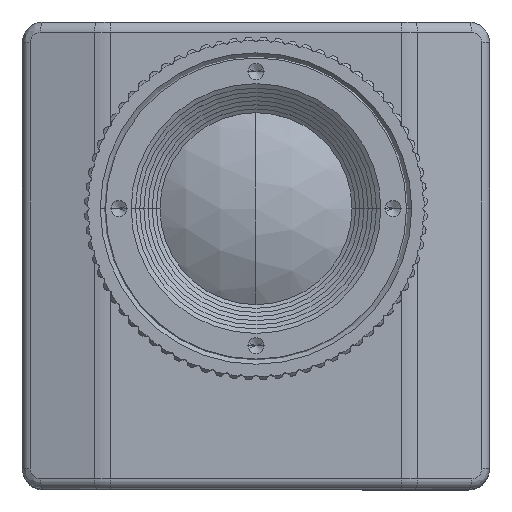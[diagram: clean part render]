
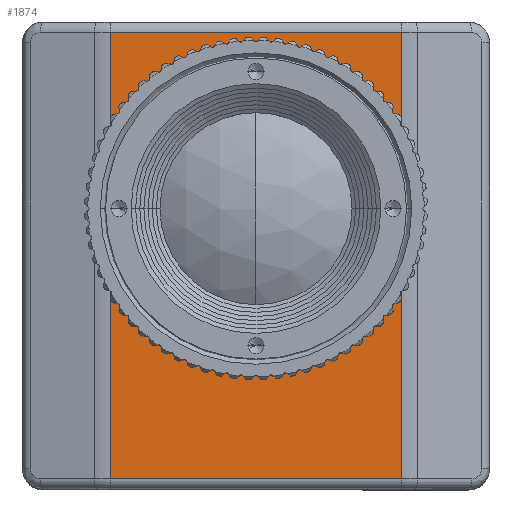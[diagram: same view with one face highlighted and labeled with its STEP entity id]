
A CAD part, top view. The second image highlights one B-rep face of the part: STEP entity #1874.
In plain terms, the highlighted planar face has unit normal (0, 0, 1).
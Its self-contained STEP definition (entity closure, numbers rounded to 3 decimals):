
#226 = CARTESIAN_POINT ( 'NONE',  ( -14., 18.001, 0. ) ) ;
#255 = AXIS2_PLACEMENT_3D ( 'NONE', #42599, #9377, #48188 ) ;
#1154 = AXIS2_PLACEMENT_3D ( 'NONE', #29415, #12685, #1776 ) ;
#1776 = DIRECTION ( 'NONE',  ( 1., 0., 0. ) ) ;
#1874 = ADVANCED_FACE ( 'NONE', ( #17220, #61524 ), #23806, .T. ) ;
#5314 = VECTOR ( 'NONE', #63180, 1000. ) ;
#5787 = DIRECTION ( 'NONE',  ( 0., 1., 0. ) ) ;
#7050 = LINE ( 'NONE', #24341, #5314 ) ;
#7486 = VECTOR ( 'NONE', #21920, 1000. ) ;
#8396 = VERTEX_POINT ( 'NONE', #25195 ) ;
#8913 = LINE ( 'NONE', #226, #49727 ) ;
#9217 = LINE ( 'NONE', #60788, #7486 ) ;
#9377 = DIRECTION ( 'NONE',  ( 0., 0., -1. ) ) ;
#9612 = ORIENTED_EDGE ( 'NONE', *, *, #62293, .T. ) ;
#12685 = DIRECTION ( 'NONE',  ( 0., 0., 1. ) ) ;
#17220 = FACE_BOUND ( 'NONE', #21642, .T. ) ;
#17264 = ORIENTED_EDGE ( 'NONE', *, *, #46543, .T. ) ;
#17596 = VERTEX_POINT ( 'NONE', #49490 ) ;
#17706 = EDGE_CURVE ( 'NONE', #8396, #35783, #8913, .T. ) ;
#21642 = EDGE_LOOP ( 'NONE', ( #9612, #28601 ) ) ;
#21920 = DIRECTION ( 'NONE',  ( 0., 1., 0. ) ) ;
#23734 = CARTESIAN_POINT ( 'NONE',  ( -14., 17., 0. ) ) ;
#23806 = PLANE ( 'NONE',  #1154 ) ;
#24341 = CARTESIAN_POINT ( 'NONE',  ( -20.5, 17., 0. ) ) ;
#25195 = CARTESIAN_POINT ( 'NONE',  ( -14., -26., 0. ) ) ;
#25766 = EDGE_CURVE ( 'NONE', #8396, #47581, #30184, .T. ) ;
#28423 = VECTOR ( 'NONE', #41501, 1000. ) ;
#28601 = ORIENTED_EDGE ( 'NONE', *, *, #46468, .T. ) ;
#28729 = ORIENTED_EDGE ( 'NONE', *, *, #43472, .T. ) ;
#29415 = CARTESIAN_POINT ( 'NONE',  ( -20.5, 16., 0. ) ) ;
#30184 = LINE ( 'NONE', #35907, #28423 ) ;
#30293 = CARTESIAN_POINT ( 'NONE',  ( 14., 17., 0. ) ) ;
#30921 = CIRCLE ( 'NONE', #255, 13.55 ) ;
#31755 = VERTEX_POINT ( 'NONE', #37967 ) ;
#32145 = CARTESIAN_POINT ( 'NONE',  ( 0., 0., 0. ) ) ;
#34622 = CARTESIAN_POINT ( 'NONE',  ( 14., -26., 0. ) ) ;
#35783 = VERTEX_POINT ( 'NONE', #23734 ) ;
#35907 = CARTESIAN_POINT ( 'NONE',  ( -20.5, -26., 0. ) ) ;
#37734 = DIRECTION ( 'NONE',  ( 1., 0., 0. ) ) ;
#37967 = CARTESIAN_POINT ( 'NONE',  ( -13.55, 0., 0. ) ) ;
#41501 = DIRECTION ( 'NONE',  ( 1., 0., 0. ) ) ;
#42599 = CARTESIAN_POINT ( 'NONE',  ( 0., 0., 0. ) ) ;
#43472 = EDGE_CURVE ( 'NONE', #64814, #35783, #7050, .T. ) ;
#44596 = AXIS2_PLACEMENT_3D ( 'NONE', #32145, #70821, #37734 ) ;
#46210 = EDGE_LOOP ( 'NONE', ( #17264, #28729, #48091, #51733 ) ) ;
#46468 = EDGE_CURVE ( 'NONE', #31755, #17596, #30921, .T. ) ;
#46543 = EDGE_CURVE ( 'NONE', #47581, #64814, #9217, .T. ) ;
#47581 = VERTEX_POINT ( 'NONE', #34622 ) ;
#48091 = ORIENTED_EDGE ( 'NONE', *, *, #17706, .F. ) ;
#48188 = DIRECTION ( 'NONE',  ( 1., 0., 0. ) ) ;
#48723 = CIRCLE ( 'NONE', #44596, 13.55 ) ;
#49490 = CARTESIAN_POINT ( 'NONE',  ( 13.55, 0., 0. ) ) ;
#49727 = VECTOR ( 'NONE', #5787, 1000. ) ;
#51733 = ORIENTED_EDGE ( 'NONE', *, *, #25766, .T. ) ;
#60788 = CARTESIAN_POINT ( 'NONE',  ( 14., -27.001, 0. ) ) ;
#61524 = FACE_OUTER_BOUND ( 'NONE', #46210, .T. ) ;
#62293 = EDGE_CURVE ( 'NONE', #17596, #31755, #48723, .T. ) ;
#63180 = DIRECTION ( 'NONE',  ( -1., 0., 0. ) ) ;
#64814 = VERTEX_POINT ( 'NONE', #30293 ) ;
#70821 = DIRECTION ( 'NONE',  ( 0., 0., -1. ) ) ;
